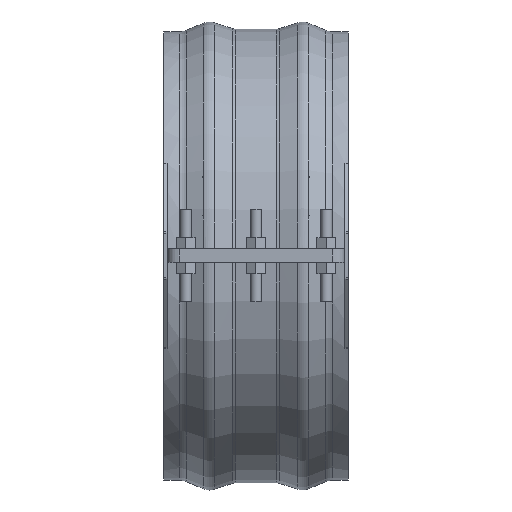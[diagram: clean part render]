
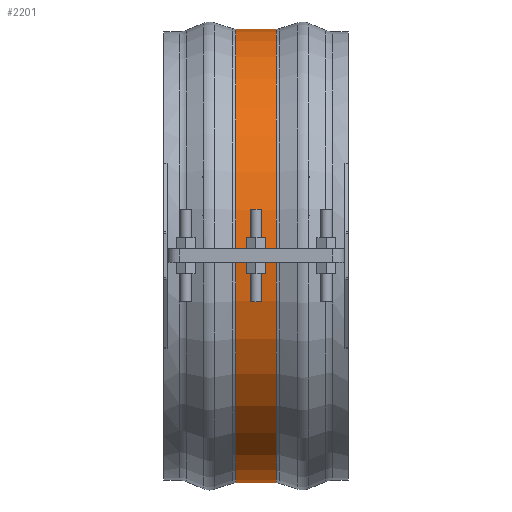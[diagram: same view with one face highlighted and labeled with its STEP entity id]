
A CAD part, top view. The second image highlights one B-rep face of the part: STEP entity #2201.
In plain terms, the highlighted cylindrical face has radius 311.849 mm (diameter 623.698 mm), a partial arc.
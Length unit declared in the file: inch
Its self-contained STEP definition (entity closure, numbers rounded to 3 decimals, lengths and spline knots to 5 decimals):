
#257=FACE_OUTER_BOUND('',#382,.T.);
#382=EDGE_LOOP('',(#1818,#1819,#1820,#1821));
#574=LINE('',#3584,#753);
#577=LINE('',#3669,#756);
#753=VECTOR('',#2893,0.3937);
#756=VECTOR('',#2904,0.3937);
#816=CIRCLE('',#2384,12.27751);
#817=CIRCLE('',#2386,12.27751);
#1017=VERTEX_POINT('',#3576);
#1018=VERTEX_POINT('',#3583);
#1029=VERTEX_POINT('',#3661);
#1030=VERTEX_POINT('',#3668);
#1290=EDGE_CURVE('',#1018,#1017,#574,.T.);
#1305=EDGE_CURVE('',#1030,#1029,#577,.T.);
#1316=EDGE_CURVE('',#1018,#1029,#816,.T.);
#1317=EDGE_CURVE('',#1017,#1030,#817,.T.);
#1818=ORIENTED_EDGE('',*,*,#1290,.T.);
#1819=ORIENTED_EDGE('',*,*,#1317,.T.);
#1820=ORIENTED_EDGE('',*,*,#1305,.T.);
#1821=ORIENTED_EDGE('',*,*,#1316,.F.);
#1994=CYLINDRICAL_SURFACE('',#2385,12.27751);
#2201=ADVANCED_FACE('',(#257),#1994,.T.);
#2384=AXIS2_PLACEMENT_3D('',#3717,#2925,#2926);
#2385=AXIS2_PLACEMENT_3D('',#3718,#2927,#2928);
#2386=AXIS2_PLACEMENT_3D('',#3719,#2929,#2930);
#2893=DIRECTION('',(-1.,0.,0.));
#2904=DIRECTION('',(1.,0.,0.));
#2925=DIRECTION('center_axis',(1.,0.,0.));
#2926=DIRECTION('ref_axis',(0.,0.,-1.));
#2927=DIRECTION('center_axis',(1.,0.,0.));
#2928=DIRECTION('ref_axis',(0.,0.,-1.));
#2929=DIRECTION('center_axis',(1.,0.,0.));
#2930=DIRECTION('ref_axis',(0.,0.,-1.));
#3576=CARTESIAN_POINT('',(-1.08851,-0.375,12.27179));
#3583=CARTESIAN_POINT('',(1.08851,-0.375,12.27179));
#3584=CARTESIAN_POINT('',(0.,-0.375,12.27179));
#3661=CARTESIAN_POINT('',(1.08851,0.375,12.27179));
#3668=CARTESIAN_POINT('',(-1.08851,0.375,12.27179));
#3669=CARTESIAN_POINT('',(0.,0.375,12.27179));
#3717=CARTESIAN_POINT('Origin',(1.08851,0.,0.));
#3718=CARTESIAN_POINT('Origin',(0.,0.,0.));
#3719=CARTESIAN_POINT('Origin',(-1.08851,0.,0.));
